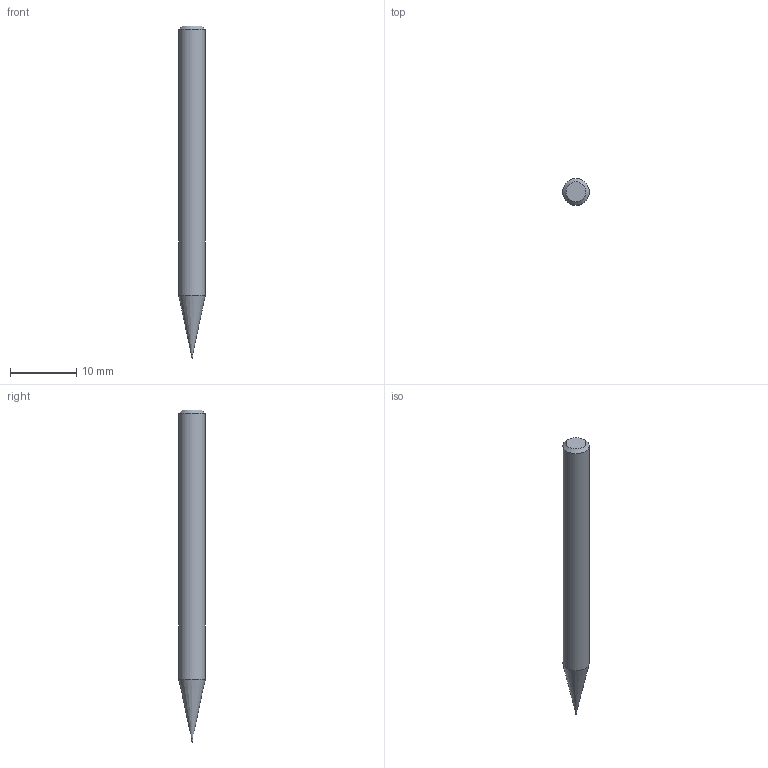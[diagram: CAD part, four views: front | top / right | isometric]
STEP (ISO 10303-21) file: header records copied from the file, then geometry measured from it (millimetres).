
FILE_DESCRIPTION((''),'2;1');
FILE_NAME('C:\Users\nsx150\AppData\Local\Temp\Mastercam 2021\LJSIDMOTM8\TEMP.step','2021-08-03T14:17:37',(''),(''),'STEP Write','Mastercam 2021 ... CNC Software, Inc.','');
FILE_SCHEMA(('AUTOMOTIVE_DESIGN'));
Length unit declared in the file: millimetre
Products named in the file (1): None
Bounding box: 4 x 4 x 50 mm (x, y, z)
Volume: 547.4 mm3; surface area: 578.6 mm2
Topology: 2 solids, 2 shells, 9 faces, 14 edges, 8 vertices
Faces by surface type: plane 3, cylinder 3, cone 2, sphere 1
Full cylindrical faces by diameter (mm): 0.19 x1, 0.2 x1, 4 x1
Entity records: 211 total; most frequent: DIRECTION 36, CARTESIAN_POINT 25, AXIS2_PLACEMENT_3D 18, ORIENTED_EDGE 14, EDGE_LOOP 14, STYLED_ITEM 12, ADVANCED_FACE 9, FACE_BOUND 8
